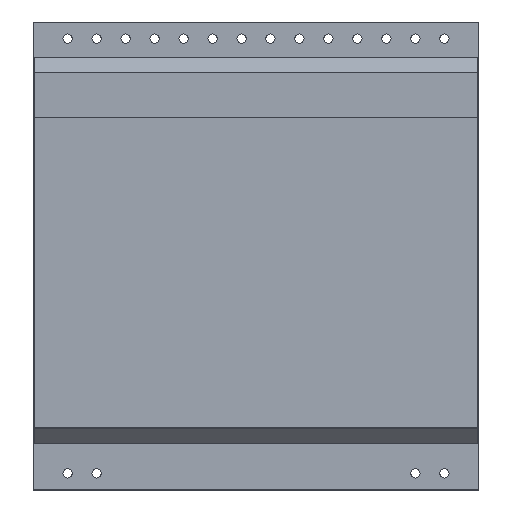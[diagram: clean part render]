
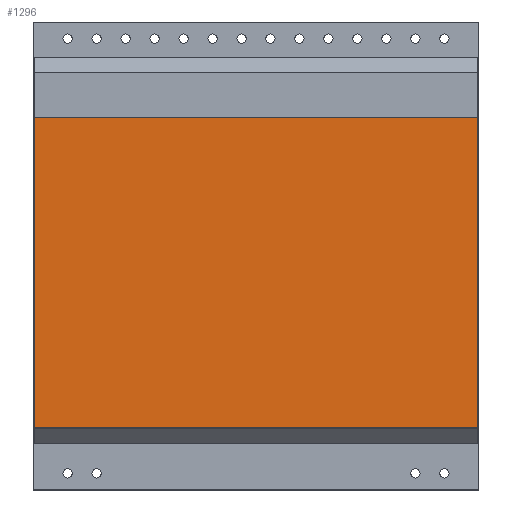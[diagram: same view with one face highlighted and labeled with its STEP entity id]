
A CAD part, top view. The second image highlights one B-rep face of the part: STEP entity #1296.
In plain terms, the highlighted planar face has unit normal (0, 0, 1).
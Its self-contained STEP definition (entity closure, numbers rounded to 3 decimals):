
#492=DIRECTION('',(0.,-1.,0.));
#493=VECTOR('',#492,27.2);
#494=CARTESIAN_POINT('',(-19.4,12.15,3.4));
#495=LINE('',#494,#493);
#496=DIRECTION('',(-1.,0.,0.));
#497=VECTOR('',#496,38.8);
#498=CARTESIAN_POINT('',(19.4,12.15,3.4));
#499=LINE('',#498,#497);
#500=DIRECTION('',(0.,1.,0.));
#501=VECTOR('',#500,27.2);
#502=CARTESIAN_POINT('',(19.4,-15.05,3.4));
#503=LINE('',#502,#501);
#504=DIRECTION('',(1.,0.,0.));
#505=VECTOR('',#504,38.8);
#506=CARTESIAN_POINT('',(-19.4,-15.05,3.4));
#507=LINE('',#506,#505);
#728=CARTESIAN_POINT('',(-19.4,12.15,3.4));
#729=CARTESIAN_POINT('',(-19.4,-15.05,3.4));
#730=VERTEX_POINT('',#728);
#731=VERTEX_POINT('',#729);
#732=CARTESIAN_POINT('',(19.4,-15.05,3.4));
#733=VERTEX_POINT('',#732);
#734=CARTESIAN_POINT('',(19.4,12.15,3.4));
#735=VERTEX_POINT('',#734);
#1283=CARTESIAN_POINT('',(0.,0.,3.4));
#1284=DIRECTION('',(0.,0.,1.));
#1285=DIRECTION('',(1.,0.,0.));
#1286=AXIS2_PLACEMENT_3D('',#1283,#1284,#1285);
#1287=PLANE('',#1286);
#1288=ORIENTED_EDGE('',*,*,#1207,.F.);
#1290=ORIENTED_EDGE('',*,*,#1289,.F.);
#1292=ORIENTED_EDGE('',*,*,#1291,.F.);
#1293=ORIENTED_EDGE('',*,*,#1276,.F.);
#1294=EDGE_LOOP('',(#1288,#1290,#1292,#1293));
#1295=FACE_OUTER_BOUND('',#1294,.F.);
#1207=EDGE_CURVE('',#730,#731,#495,.T.);
#1276=EDGE_CURVE('',#731,#733,#507,.T.);
#1289=EDGE_CURVE('',#735,#730,#499,.T.);
#1291=EDGE_CURVE('',#733,#735,#503,.T.);
#1296=ADVANCED_FACE('',(#1295),#1287,.T.);
